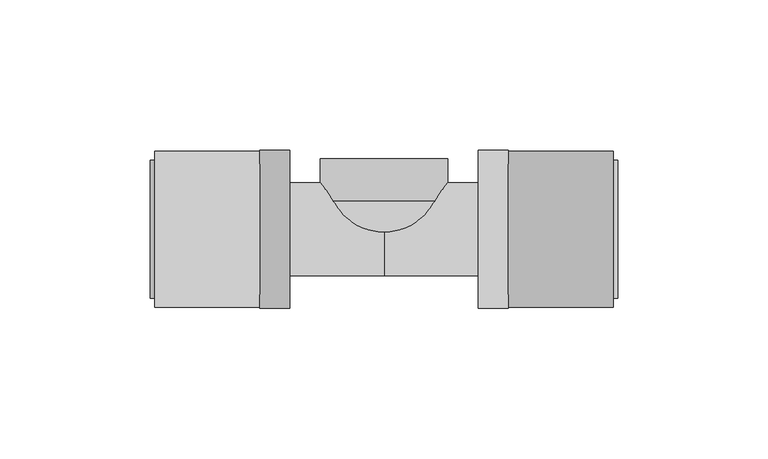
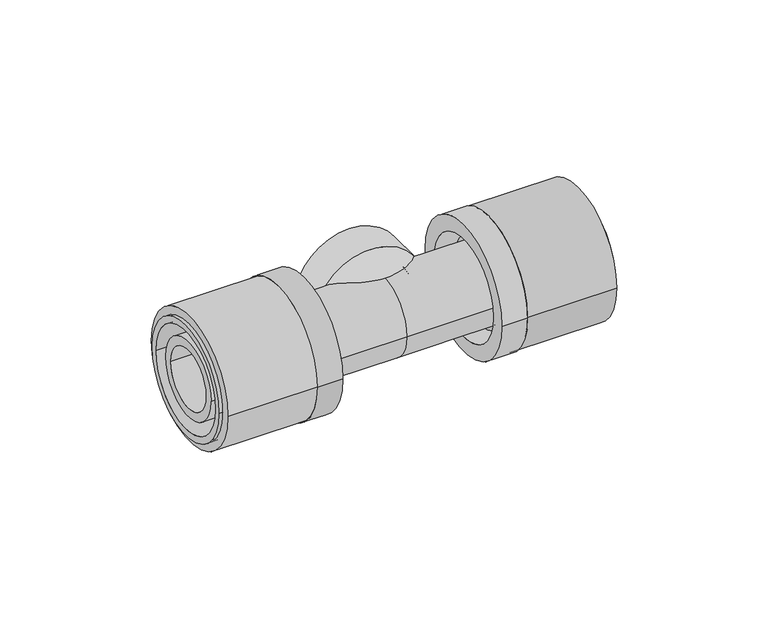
"""IFC4 building model written with IfcOpenShell, lengths in millimetres: pipe fitting geometry, FASTLOC_T-piece internal thread LX : FSL T thread LX CZ."""

from ifc_helpers import new_model, si_unit, point, frame, origin, origin_2d, place, context, project, spatial, polyline, circle_curve, ellipse_curve, trimmed, segment, composite_curve, outline, extrude, source, transform, mapped, element, save
from ifc_brep_helpers import plane_surface, cylinder_surface, revolved_surface, advanced_brep


def pipe_fitting_00caae07(model_context):
    return source(origin(), model_context, "Body", "SolidModel", [
        extrude(outline(composite_curve([segment(trimmed(circle_curve(origin_2d(), 26.0), [point((-26.0, 0.0))], [point((26.0, 0.0))], False, "CARTESIAN"), True, "CONTINUOUS"), segment(trimmed(circle_curve(origin_2d(), 26.0), [point((26.0, 0.0))], [point((-26.0, 0.0))], False, "CARTESIAN"), True, "CONTINUOUS")], self_intersect=False), holes=[composite_curve([segment(trimmed(circle_curve(origin_2d(), 21.25), [point((-21.25, 0.0))], [point((21.25, 0.0))], True, "CARTESIAN"), True, "CONTINUOUS"), segment(trimmed(circle_curve(origin_2d(), 21.25), [point((21.25, 0.0))], [point((-21.25, 0.0))], True, "CARTESIAN"), True, "CONTINUOUS")], self_intersect=False)]), frame((41.3, 0.0, 0.0), z_axis=(1.0, 0.0, 0.0), x_axis=(0.0, 1.0, 0.0)), (0.0, 0.0, 1.0), 35.0),
        advanced_brep(
        [(41.3, 26.3, 0.0), (41.3, -26.3, 0.0), (31.3, -26.3, 0.0), (31.3, 26.3, 0.0), (77.8, 22.9, 0.0), (77.8, -22.9, 0.0), (41.3, -22.9, 0.0), (41.3, 22.9, 0.0), (31.3, 20.2, 0.0), (31.3, -20.2, 0.0), (77.8, -20.2, 0.0), (77.8, 20.2, 0.0)],
        [
            (0, 1, circle_curve(frame((41.3, 0.0, 0.0), z_axis=(-1.0, 0.0, 0.0), x_axis=(0.0, -1.0, 0.0)), 26.3)),
            (1, 2),
            (2, 3, circle_curve(frame((31.3, 0.0, 0.0), z_axis=(1.0, 0.0, 0.0), x_axis=(0.0, -1.0, 0.0)), 26.3)),
            (3, 0),
            (4, 5, circle_curve(frame((77.8, 0.0, 0.0), z_axis=(-1.0, 0.0, 0.0), x_axis=(0.0, -1.0, 0.0)), 22.9)),
            (5, 6),
            (6, 7, circle_curve(frame((41.3, 0.0, 0.0), z_axis=(1.0, 0.0, 0.0), x_axis=(0.0, -1.0, 0.0)), 22.9)),
            (7, 4),
            (8, 9, circle_curve(frame((31.3, 0.0, 0.0), z_axis=(-1.0, 0.0, 0.0), x_axis=(0.0, -1.0, 0.0)), 20.2)),
            (9, 10),
            (10, 11, circle_curve(frame((77.8, 0.0, 0.0), z_axis=(1.0, 0.0, 0.0), x_axis=(0.0, -1.0, 0.0)), 20.2)),
            (11, 8),
            (1, 0, circle_curve(frame((41.3, 0.0, 0.0), z_axis=(-1.0, 0.0, 0.0), x_axis=(0.0, 1.0, 0.0)), 26.3)),
            (3, 2, circle_curve(frame((31.3, 0.0, 0.0), z_axis=(1.0, 0.0, 0.0), x_axis=(0.0, 1.0, 0.0)), 26.3)),
            (6, 7, circle_curve(frame((41.3, 0.0, 0.0), z_axis=(-1.0, 0.0, 0.0), x_axis=(0.0, 1.0, 0.0)), 22.9)),
            (5, 4, circle_curve(frame((77.8, 0.0, 0.0), z_axis=(-1.0, 0.0, 0.0), x_axis=(0.0, 1.0, 0.0)), 22.9)),
            (10, 11, circle_curve(frame((77.8, 0.0, 0.0), z_axis=(-1.0, 0.0, 0.0), x_axis=(0.0, 1.0, 0.0)), 20.2)),
            (9, 8, circle_curve(frame((31.3, 0.0, 0.0), z_axis=(-1.0, 0.0, 0.0), x_axis=(0.0, 1.0, 0.0)), 20.2)),
        ],
        [
            cylinder_surface(frame((31.3, 0.0, 0.0), z_axis=(1.0, 0.0, 0.0), x_axis=(0.0, -1.0, 0.0)), 26.3),
            cylinder_surface(frame((31.3, 0.0, 0.0), z_axis=(1.0, 0.0, 0.0), x_axis=(0.0, -1.0, 0.0)), 22.9),
            revolved_surface(polyline([(77.8, -20.2, 0.0), (31.3, -20.2, 0.0)]), (31.3, 0.0, 0.0), (1.0, 0.0, 0.0)),
            cylinder_surface(frame((31.3, 0.0, 0.0), z_axis=(1.0, 0.0, 0.0), x_axis=(0.0, 1.0, 0.0)), 26.3),
            plane_surface(frame((41.3, 0.0, 0.0), z_axis=(1.0, 0.0, 0.0), x_axis=(0.0, 1.0, 0.0))),
            cylinder_surface(frame((31.3, 0.0, 0.0), z_axis=(1.0, 0.0, 0.0), x_axis=(0.0, 1.0, 0.0)), 22.9),
            plane_surface(frame((77.8, 0.0, 0.0), z_axis=(1.0, 0.0, 0.0), x_axis=(0.0, 1.0, 0.0))),
            revolved_surface(polyline([(77.8, 20.2, 0.0), (31.3, 20.2, 0.0)]), (31.3, 0.0, 0.0), (1.0, 0.0, 0.0)),
            plane_surface(frame((31.3, 0.0, 0.0), z_axis=(-1.0, 0.0, 0.0), x_axis=(0.0, 1.0, 0.0))),
        ],
        [
            (0, [[1, 2, 3, 4]]),
            (1, [[5, 6, 7, 8]]),
            (2, [[9, 10, 11, 12]]),
            (3, [[13, -4, 14, -2]]),
            (4, [[-13, -1], [15, -7]]),
            (5, [[16, -8, -15, -6]]),
            (6, [[-16, -5], [17, -11]]),
            (7, [[18, -12, -17, -10]]),
            (8, [[-14, -3], [-18, -9]]),
        ],
    ),
        extrude(outline(composite_curve([segment(trimmed(circle_curve(origin_2d(), 26.0), [point((26.0, 0.0))], [point((-26.0, 0.0))], False, "CARTESIAN"), True, "CONTINUOUS"), segment(trimmed(circle_curve(origin_2d(), 26.0), [point((-26.0, 0.0))], [point((26.0, 0.0))], False, "CARTESIAN"), True, "CONTINUOUS")], self_intersect=False), holes=[composite_curve([segment(trimmed(circle_curve(origin_2d(), 21.25), [point((21.25, 0.0))], [point((-21.25, 0.0))], True, "CARTESIAN"), True, "CONTINUOUS"), segment(trimmed(circle_curve(origin_2d(), 21.25), [point((-21.25, 0.0))], [point((21.25, 0.0))], True, "CARTESIAN"), True, "CONTINUOUS")], self_intersect=False)]), frame((-76.3, 0.0, 0.0), z_axis=(1.0, 0.0, 0.0), x_axis=(0.0, 1.0, 0.0)), (0.0, 0.0, 1.0), 35.0),
        advanced_brep(
        [(-41.3, -26.3, 0.0), (-41.3, 26.3, 0.0), (-31.3, 26.3, 0.0), (-31.3, -26.3, 0.0), (-77.8, -22.9, 0.0), (-77.8, 22.9, 0.0), (-41.3, 22.9, 0.0), (-41.3, -22.9, 0.0), (-31.3, -20.2, 0.0), (-31.3, 20.2, 0.0), (-77.8, 20.2, 0.0), (-77.8, -20.2, 0.0)],
        [
            (0, 1, circle_curve(frame((-41.3, 0.0, 0.0), z_axis=(1.0, 0.0, 0.0), x_axis=(0.0, 1.0, 0.0)), 26.3)),
            (1, 2),
            (2, 3, circle_curve(frame((-31.3, 0.0, 0.0), z_axis=(-1.0, 0.0, 0.0), x_axis=(0.0, 1.0, 0.0)), 26.3)),
            (3, 0),
            (4, 5, circle_curve(frame((-77.8, 0.0, 0.0), z_axis=(1.0, 0.0, 0.0), x_axis=(0.0, 1.0, 0.0)), 22.9)),
            (5, 6),
            (6, 7, circle_curve(frame((-41.3, 0.0, 0.0), z_axis=(-1.0, 0.0, 0.0), x_axis=(0.0, 1.0, 0.0)), 22.9)),
            (7, 4),
            (8, 9, circle_curve(frame((-31.3, 0.0, 0.0), z_axis=(1.0, 0.0, 0.0), x_axis=(0.0, 1.0, 0.0)), 20.2)),
            (9, 10),
            (10, 11, circle_curve(frame((-77.8, 0.0, 0.0), z_axis=(-1.0, 0.0, 0.0), x_axis=(0.0, 1.0, 0.0)), 20.2)),
            (11, 8),
            (1, 0, circle_curve(frame((-41.3, 0.0, 0.0), z_axis=(1.0, 0.0, 0.0), x_axis=(0.0, -1.0, 0.0)), 26.3)),
            (3, 2, circle_curve(frame((-31.3, 0.0, 0.0), z_axis=(-1.0, 0.0, 0.0), x_axis=(0.0, -1.0, 0.0)), 26.3)),
            (6, 7, circle_curve(frame((-41.3, 0.0, 0.0), z_axis=(1.0, 0.0, 0.0), x_axis=(0.0, -1.0, 0.0)), 22.9)),
            (5, 4, circle_curve(frame((-77.8, 0.0, 0.0), z_axis=(1.0, 0.0, 0.0), x_axis=(0.0, -1.0, 0.0)), 22.9)),
            (10, 11, circle_curve(frame((-77.8, 0.0, 0.0), z_axis=(1.0, 0.0, 0.0), x_axis=(0.0, -1.0, 0.0)), 20.2)),
            (9, 8, circle_curve(frame((-31.3, 0.0, 0.0), z_axis=(1.0, 0.0, 0.0), x_axis=(0.0, -1.0, 0.0)), 20.2)),
        ],
        [
            cylinder_surface(frame((-31.3, 0.0, 0.0), z_axis=(-1.0, 0.0, 0.0), x_axis=(0.0, 1.0, 0.0)), 26.3),
            cylinder_surface(frame((-31.3, 0.0, 0.0), z_axis=(-1.0, 0.0, 0.0), x_axis=(0.0, 1.0, 0.0)), 22.9),
            revolved_surface(polyline([(-77.8, 20.2, 0.0), (-31.3, 20.2, 0.0)]), (-31.3, 0.0, 0.0), (-1.0, 0.0, 0.0)),
            cylinder_surface(frame((-31.3, 0.0, 0.0), z_axis=(-1.0, 0.0, 0.0), x_axis=(0.0, -1.0, 0.0)), 26.3),
            plane_surface(frame((-41.3, 0.0, 0.0), z_axis=(-1.0, 0.0, 0.0), x_axis=(0.0, -1.0, 0.0))),
            cylinder_surface(frame((-31.3, 0.0, 0.0), z_axis=(-1.0, 0.0, 0.0), x_axis=(0.0, -1.0, 0.0)), 22.9),
            plane_surface(frame((-77.8, 0.0, 0.0), z_axis=(-1.0, 0.0, 0.0), x_axis=(0.0, -1.0, 0.0))),
            revolved_surface(polyline([(-77.8, -20.2, 0.0), (-31.3, -20.2, 0.0)]), (-31.3, 0.0, 0.0), (-1.0, 0.0, 0.0)),
            plane_surface(frame((-31.3, 0.0, 0.0), z_axis=(1.0, 0.0, 0.0), x_axis=(0.0, -1.0, 0.0))),
        ],
        [
            (0, [[1, 2, 3, 4]]),
            (1, [[5, 6, 7, 8]]),
            (2, [[9, 10, 11, 12]]),
            (3, [[13, -4, 14, -2]]),
            (4, [[-13, -1], [15, -7]]),
            (5, [[16, -8, -15, -6]]),
            (6, [[-16, -5], [17, -11]]),
            (7, [[18, -12, -17, -10]]),
            (8, [[-14, -3], [-18, -9]]),
        ],
    ),
        advanced_brep(
        [(41.3, 17.2, 0.0), (41.3, -17.2, 0.0), (37.6, -17.2, 0.0), (37.6, 17.2, 0.0), (76.8, 15.5, 0.0), (76.8, -15.5, 0.0), (41.3, -15.5, 0.0), (41.3, 15.5, 0.0), (-76.8, 11.95, 0.0), (-76.8, -11.95, 0.0), (76.8, -11.95, 0.0), (76.8, 11.95, 0.0), (-41.3, 15.5, 0.0), (-41.3, -15.5, 0.0), (-76.8, -15.5, 0.0), (-76.8, 15.5, 0.0), (-37.6, 17.2, 0.0), (-37.6, -17.2, 0.0), (-41.3, -17.2, 0.0), (-41.3, 17.2, 0.0), (0.0, 15.5, 0.0), (0.0, -15.5, 0.0), (-37.6, -15.5, 0.0), (-37.6, 15.5, 0.0), (37.6, 15.5, 0.0), (37.6, -15.5, 0.0)],
        [
            (0, 1, circle_curve(frame((41.3, 0.0, 0.0), z_axis=(-1.0, 0.0, 0.0), x_axis=(0.0, -1.0, 0.0)), 17.2)),
            (1, 2),
            (2, 3, circle_curve(frame((37.6, 0.0, 0.0), z_axis=(1.0, 0.0, 0.0), x_axis=(0.0, -1.0, 0.0)), 17.2)),
            (3, 0),
            (4, 5, circle_curve(frame((76.8, 0.0, 0.0), z_axis=(-1.0, 0.0, 0.0), x_axis=(0.0, -1.0, 0.0)), 15.5)),
            (5, 6),
            (6, 7, circle_curve(frame((41.3, 0.0, 0.0), z_axis=(1.0, 0.0, 0.0), x_axis=(0.0, -1.0, 0.0)), 15.5)),
            (7, 4),
            (8, 9, circle_curve(frame((-76.8, 0.0, 0.0), z_axis=(-1.0, 0.0, 0.0), x_axis=(0.0, -1.0, 0.0)), 11.95)),
            (9, 10),
            (10, 11, circle_curve(frame((76.8, 0.0, 0.0), z_axis=(1.0, 0.0, 0.0), x_axis=(0.0, -1.0, 0.0)), 11.95)),
            (11, 8),
            (12, 13, circle_curve(frame((-41.3, 0.0, 0.0), z_axis=(-1.0, 0.0, 0.0), x_axis=(0.0, -1.0, 0.0)), 15.5)),
            (13, 14),
            (14, 15, circle_curve(frame((-76.8, 0.0, 0.0), z_axis=(1.0, 0.0, 0.0), x_axis=(0.0, -1.0, 0.0)), 15.5)),
            (15, 12),
            (16, 17, circle_curve(frame((-37.6, 0.0, 0.0), z_axis=(-1.0, 0.0, 0.0), x_axis=(0.0, -1.0, 0.0)), 17.2)),
            (17, 18),
            (18, 19, circle_curve(frame((-41.3, 0.0, 0.0), z_axis=(1.0, 0.0, 0.0), x_axis=(0.0, -1.0, 0.0)), 17.2)),
            (19, 16),
            (20, 21, circle_curve(frame((0.0, 0.0, 0.0), z_axis=(-1.0, 0.0, 0.0), x_axis=(0.0, -1.0, 0.0)), 15.5)),
            (21, 22),
            (22, 23, circle_curve(frame((-37.6, 0.0, 0.0), z_axis=(1.0, 0.0, 0.0), x_axis=(0.0, -1.0, 0.0)), 15.5)),
            (23, 20),
            (24, 25, circle_curve(frame((37.6, 0.0, 0.0), z_axis=(-1.0, 0.0, 0.0), x_axis=(0.0, -1.0, 0.0)), 15.5)),
            (25, 21),
            (20, 24),
            (1, 0, circle_curve(frame((41.3, 0.0, 0.0), z_axis=(-1.0, 0.0, 0.0), x_axis=(0.0, 1.0, 0.0)), 17.2)),
            (3, 2, circle_curve(frame((37.6, 0.0, 0.0), z_axis=(1.0, 0.0, 0.0), x_axis=(0.0, 1.0, 0.0)), 17.2)),
            (6, 7, circle_curve(frame((41.3, 0.0, 0.0), z_axis=(-1.0, 0.0, 0.0), x_axis=(0.0, 1.0, 0.0)), 15.5)),
            (5, 4, circle_curve(frame((76.8, 0.0, 0.0), z_axis=(-1.0, 0.0, 0.0), x_axis=(0.0, 1.0, 0.0)), 15.5)),
            (10, 11, circle_curve(frame((76.8, 0.0, 0.0), z_axis=(-1.0, 0.0, 0.0), x_axis=(0.0, 1.0, 0.0)), 11.95)),
            (9, 8, circle_curve(frame((-76.8, 0.0, 0.0), z_axis=(-1.0, 0.0, 0.0), x_axis=(0.0, 1.0, 0.0)), 11.95)),
            (14, 15, circle_curve(frame((-76.8, 0.0, 0.0), z_axis=(-1.0, 0.0, 0.0), x_axis=(0.0, 1.0, 0.0)), 15.5)),
            (13, 12, circle_curve(frame((-41.3, 0.0, 0.0), z_axis=(-1.0, 0.0, 0.0), x_axis=(0.0, 1.0, 0.0)), 15.5)),
            (18, 19, circle_curve(frame((-41.3, 0.0, 0.0), z_axis=(-1.0, 0.0, 0.0), x_axis=(0.0, 1.0, 0.0)), 17.2)),
            (17, 16, circle_curve(frame((-37.6, 0.0, 0.0), z_axis=(-1.0, 0.0, 0.0), x_axis=(0.0, 1.0, 0.0)), 17.2)),
            (22, 23, circle_curve(frame((-37.6, 0.0, 0.0), z_axis=(-1.0, 0.0, 0.0), x_axis=(0.0, 1.0, 0.0)), 15.5)),
            (21, 20, circle_curve(frame((0.0, 0.0, 0.0), z_axis=(-1.0, 0.0, 0.0), x_axis=(0.0, 1.0, 0.0)), 15.5)),
            (25, 24, circle_curve(frame((37.6, 0.0, 0.0), z_axis=(-1.0, 0.0, 0.0), x_axis=(0.0, 1.0, 0.0)), 15.5)),
        ],
        [
            cylinder_surface(frame((0.0, 0.0, 0.0), z_axis=(1.0, 0.0, 0.0), x_axis=(0.0, -1.0, 0.0)), 17.2),
            cylinder_surface(frame((0.0, 0.0, 0.0), z_axis=(1.0, 0.0, 0.0), x_axis=(0.0, -1.0, 0.0)), 15.5),
            revolved_surface(polyline([(76.8, -11.95, 0.0), (-76.8, -11.95, 0.0)]), (0.0, 0.0, 0.0), (1.0, 0.0, 0.0)),
            cylinder_surface(frame((0.0, 0.0, 0.0), z_axis=(1.0, 0.0, 0.0), x_axis=(0.0, 1.0, 0.0)), 17.2),
            plane_surface(frame((41.3, 0.0, 0.0), z_axis=(1.0, 0.0, 0.0), x_axis=(0.0, 1.0, 0.0))),
            cylinder_surface(frame((0.0, 0.0, 0.0), z_axis=(1.0, 0.0, 0.0), x_axis=(0.0, 1.0, 0.0)), 15.5),
            plane_surface(frame((76.8, 0.0, 0.0), z_axis=(1.0, 0.0, 0.0), x_axis=(0.0, 1.0, 0.0))),
            revolved_surface(polyline([(76.8, 11.95, 0.0), (-76.8, 11.95, 0.0)]), (0.0, 0.0, 0.0), (1.0, 0.0, 0.0)),
            plane_surface(frame((-76.8, 0.0, 0.0), z_axis=(-1.0, 0.0, 0.0), x_axis=(0.0, 1.0, 0.0))),
            plane_surface(frame((-41.3, 0.0, 0.0), z_axis=(-1.0, 0.0, 0.0), x_axis=(0.0, 1.0, 0.0))),
            plane_surface(frame((-37.6, 0.0, 0.0), z_axis=(1.0, 0.0, 0.0), x_axis=(0.0, 1.0, 0.0))),
            plane_surface(frame((37.6, 0.0, 0.0), z_axis=(-1.0, 0.0, 0.0), x_axis=(0.0, 1.0, 0.0))),
        ],
        [
            (0, [[1, 2, 3, 4]]),
            (1, [[5, 6, 7, 8]]),
            (2, [[9, 10, 11, 12]]),
            (1, [[13, 14, 15, 16]]),
            (0, [[17, 18, 19, 20]]),
            (1, [[21, 22, 23, 24]]),
            (1, [[25, 26, -21, 27]]),
            (3, [[28, -4, 29, -2]]),
            (4, [[-28, -1], [30, -7]]),
            (5, [[31, -8, -30, -6]]),
            (6, [[-31, -5], [32, -11]]),
            (7, [[33, -12, -32, -10]]),
            (8, [[34, -15], [-33, -9]]),
            (5, [[35, -16, -34, -14]]),
            (9, [[36, -19], [-35, -13]]),
            (3, [[37, -20, -36, -18]]),
            (10, [[-37, -17], [38, -23]]),
            (5, [[39, -24, -38, -22]]),
            (5, [[40, -27, -39, -26]]),
            (11, [[-29, -3], [-40, -25]]),
        ],
    ),
        advanced_brep(
        [(9.0, -3.3401923, 0.0), (-9.0, -3.3401923, 0.0), (-21.25, 9.4, 0.0), (21.25, 9.4, 0.0), (9.0, 1.9166852, 0.0), (-9.0, 1.9166852, 0.0), (16.0, 9.4, 0.0), (-16.0, 9.4, 0.0), (16.0, 23.5, 0.0), (-16.0, 23.5, 0.0), (-21.25, 23.5, 0.0), (21.25, 23.5, 0.0)],
        [
            (0, 1, circle_curve(frame((0.0, -3.3401923, 0.0), z_axis=(0.0, 1.0, 0.0), x_axis=(-1.0, 0.0, 0.0)), 9.0)),
            (1, 2, circle_curve(frame((-8.5, 9.4, 0.0), z_axis=(0.0, 0.0, -1.0), x_axis=(0.0, 1.0, 0.0)), 12.75)),
            (2, 3, circle_curve(frame((0.0, 9.4, 0.0), z_axis=(0.0, -1.0, 0.0), x_axis=(-1.0, 0.0, 0.0)), 21.25)),
            (3, 0, circle_curve(frame((8.5, 9.4, 0.0), z_axis=(0.0, 0.0, -1.0), x_axis=(0.0, 1.0, 0.0)), 12.75)),
            (4, 5, circle_curve(frame((0.0, 1.9166852, 0.0), z_axis=(0.0, 1.0, 0.0), x_axis=(-1.0, 0.0, 0.0)), 9.0)),
            (5, 1),
            (0, 4),
            (6, 7, circle_curve(frame((0.0, 9.4, 0.0), z_axis=(0.0, 1.0, 0.0), x_axis=(-1.0, 0.0, 0.0)), 16.0)),
            (7, 5, circle_curve(frame((-8.5, 9.4, 0.0), z_axis=(0.0, 0.0, 1.0), x_axis=(0.0, 1.0, 0.0)), 7.5)),
            (4, 6, circle_curve(frame((8.5, 9.4, 0.0), z_axis=(0.0, 0.0, 1.0), x_axis=(0.0, 1.0, 0.0)), 7.5)),
            (8, 9, circle_curve(frame((0.0, 23.5, 0.0), z_axis=(0.0, 1.0, 0.0), x_axis=(-1.0, 0.0, 0.0)), 16.0)),
            (9, 7),
            (6, 8),
            (2, 10),
            (10, 11, circle_curve(frame((0.0, 23.5, 0.0), z_axis=(0.0, -1.0, 0.0), x_axis=(-1.0, 0.0, 0.0)), 21.25)),
            (11, 3),
            (1, 0, circle_curve(frame((0.0, -3.3401923, 0.0), z_axis=(0.0, 1.0, 0.0), x_axis=(1.0, 0.0, 0.0)), 9.0)),
            (3, 2, circle_curve(frame((0.0, 9.4, 0.0), z_axis=(0.0, -1.0, 0.0), x_axis=(1.0, 0.0, 0.0)), 21.25)),
            (5, 4, circle_curve(frame((0.0, 1.9166852, 0.0), z_axis=(0.0, 1.0, 0.0), x_axis=(1.0, 0.0, 0.0)), 9.0)),
            (7, 6, circle_curve(frame((0.0, 9.4, 0.0), z_axis=(0.0, 1.0, 0.0), x_axis=(1.0, 0.0, 0.0)), 16.0)),
            (9, 8, circle_curve(frame((0.0, 23.5, 0.0), z_axis=(0.0, 1.0, 0.0), x_axis=(1.0, 0.0, 0.0)), 16.0)),
            (10, 11, circle_curve(frame((0.0, 23.5, 0.0), z_axis=(0.0, 1.0, 0.0), x_axis=(1.0, 0.0, 0.0)), 21.25)),
        ],
        [
            revolved_surface(trimmed(ellipse_curve(frame((-8.5, 9.4, 0.0), z_axis=(0.0, 0.0, 1.0), x_axis=(0.0, 1.0, 0.0)), 12.75, 12.75), [point((-21.25, 9.4, 0.0))], [point((-9.0, -3.3401923, 0.0))], True, "CARTESIAN"), (0.0, 0.0, 0.0), (0.0, -1.0, 0.0)),
            revolved_surface(polyline([(-9.0, -3.3401923, 0.0), (-9.0, 1.9166852, 0.0)]), (0.0, 0.0, 0.0), (0.0, -1.0, 0.0)),
            revolved_surface(trimmed(ellipse_curve(frame((-8.5, 9.4, 0.0), z_axis=(0.0, 0.0, -1.0), x_axis=(0.0, 1.0, 0.0)), 7.5, 7.5), [point((-9.0, 1.9166852, 0.0))], [point((-16.0, 9.4, 0.0))], True, "CARTESIAN"), (0.0, 0.0, 0.0), (0.0, -1.0, 0.0)),
            revolved_surface(polyline([(-16.0, 9.4, 0.0), (-16.0, 23.5, 0.0)]), (0.0, 0.0, 0.0), (0.0, -1.0, 0.0)),
            cylinder_surface(frame((0.0, 0.0, 0.0), z_axis=(0.0, -1.0, 0.0), x_axis=(-1.0, 0.0, 0.0)), 21.25),
            revolved_surface(trimmed(ellipse_curve(frame((8.5, 9.4, 0.0), z_axis=(0.0, 0.0, -1.0), x_axis=(0.0, 1.0, 0.0)), 12.75, 12.75), [point((21.25, 9.4, 0.0))], [point((9.0, -3.3401923, 0.0))], True, "CARTESIAN"), (0.0, 0.0, 0.0), (0.0, -1.0, 0.0)),
            revolved_surface(polyline([(9.0, -3.3401923, 0.0), (9.0, 1.9166852, 0.0)]), (0.0, 0.0, 0.0), (0.0, -1.0, 0.0)),
            revolved_surface(trimmed(ellipse_curve(frame((8.5, 9.4, 0.0), z_axis=(0.0, 0.0, 1.0), x_axis=(0.0, 1.0, 0.0)), 7.5, 7.5), [point((9.0, 1.9166852, 0.0))], [point((16.0, 9.4, 0.0))], True, "CARTESIAN"), (0.0, 0.0, 0.0), (0.0, -1.0, 0.0)),
            revolved_surface(polyline([(16.0, 9.4, 0.0), (16.0, 23.5, 0.0)]), (0.0, 0.0, 0.0), (0.0, -1.0, 0.0)),
            plane_surface(frame((0.0, 23.5, 0.0), z_axis=(0.0, 1.0, 0.0), x_axis=(1.0, 0.0, 0.0))),
            cylinder_surface(frame((0.0, 0.0, 0.0), z_axis=(0.0, -1.0, 0.0), x_axis=(1.0, 0.0, 0.0)), 21.25),
        ],
        [
            (0, [[1, 2, 3, 4]]),
            (1, [[5, 6, -1, 7]]),
            (2, [[8, 9, -5, 10]]),
            (3, [[11, 12, -8, 13]]),
            (4, [[-3, 14, 15, 16]]),
            (5, [[17, -4, 18, -2]]),
            (6, [[19, -7, -17, -6]]),
            (7, [[20, -10, -19, -9]]),
            (8, [[21, -13, -20, -12]]),
            (9, [[22, -15], [-21, -11]]),
            (10, [[-18, -16, -22, -14]]),
        ],
    ),
    ])


if __name__ == "__main__":
    model = new_model("IFC4")
    model_context = context("Model", 3, world=origin())
    ifc_project = project(units=[si_unit("LENGTHUNIT", "METRE", prefix="MILLI")], contexts=[model_context])
    site = spatial("IfcSite", under=ifc_project)
    building = spatial("IfcBuilding", under=site)
    placement = place(None, origin())
    pipe_fitting_shape = pipe_fitting_00caae07(model_context)
    element("IfcPipeFitting", 1, ObjectType="FASTLOC_T-piece internal thread LX : FSL T thread LX CZ", at=placement, inside=building, context=model_context, shape_type="MappedRepresentation", body=[
        mapped(pipe_fitting_shape, transform((0.0, 0.0, 0.0), x_axis=(1.0, 0.0, 0.0), y_axis=(0.0, 1.0, 0.0), z_axis=(0.0, 0.0, 1.0))),
    ])
    save(model, "model.ifc")
